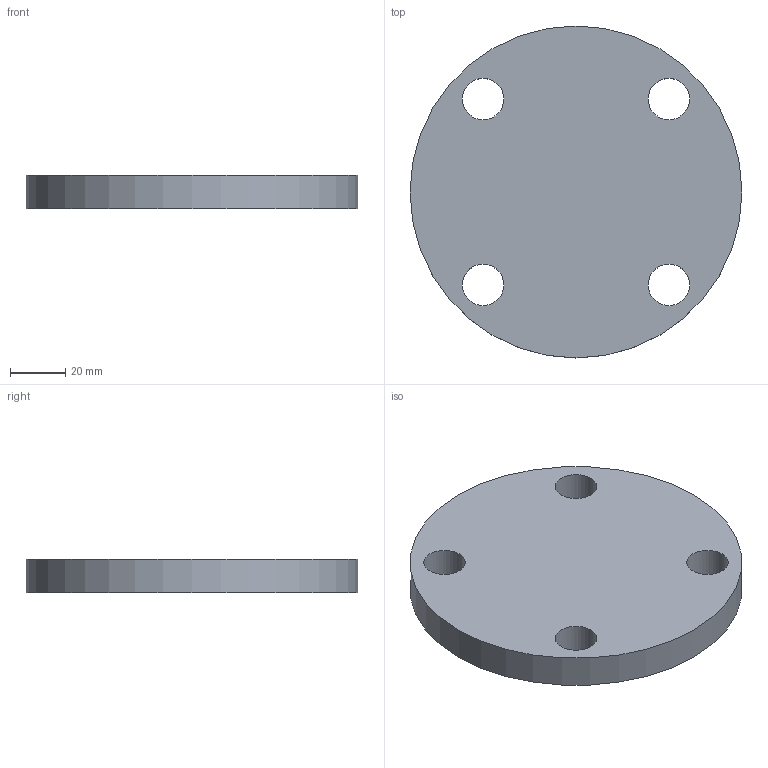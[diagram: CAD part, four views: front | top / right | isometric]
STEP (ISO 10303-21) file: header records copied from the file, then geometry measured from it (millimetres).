
FILE_DESCRIPTION(/* description */ (''),/* implementation_level */ '2;1');
FILE_NAME(/* name */ 'C:\Users\D\Documents\Inventor\HP\JIS\フランジ\JIS 5k bl ff\jis5k-bl-ff-40.stp',/* time_stamp */ '2024-09-12T16:49:45+09:00',/* author */ ('D'),/* organization */ (''),/* preprocessor_version */ 'ST-DEVELOPER v18',/* originating_system */ 'Autodesk Inventor 2020',/* authorisation */ '');
FILE_SCHEMA (('AUTOMOTIVE_DESIGN { 1 0 10303 214 3 1 1 }'));
Length unit declared in the file: millimetre
Products named in the file (1): jis5k-sop-rf-10
Bounding box: 120 x 120 x 12 mm (x, y, z)
Volume: 127234.5 mm3; surface area: 27991.6 mm2
Topology: 1 solids, 1 shells, 7 faces, 21 edges, 16 vertices
Faces by surface type: cylinder 5, plane 2
Full cylindrical faces by diameter (mm): 15 x4, 120 x1
Entity records: 316 total; most frequent: DIRECTION 53, CARTESIAN_POINT 45, ORIENTED_EDGE 42, AXIS2_PLACEMENT_3D 24, EDGE_CURVE 21, CIRCLE 16, VERTEX_POINT 16, EDGE_LOOP 15
